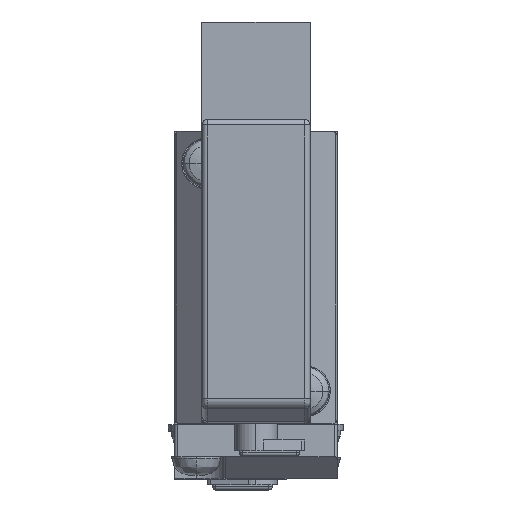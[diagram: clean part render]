
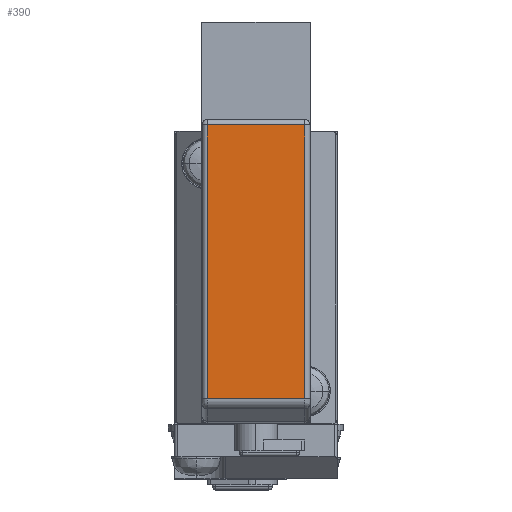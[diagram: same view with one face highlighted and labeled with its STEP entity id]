
A CAD part, top view. The second image highlights one B-rep face of the part: STEP entity #390.
In plain terms, the highlighted planar face has unit normal (0, 0, 1).
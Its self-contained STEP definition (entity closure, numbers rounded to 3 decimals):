
#390=ADVANCED_FACE('',(#1549),#1548,.F.);
#1548=PLANE('',#4324);
#1549=FACE_OUTER_BOUND('',#4325,.T.);
#4321=CARTESIAN_POINT('',(5.4,-27.283,27.4));
#4322=DIRECTION('',(0.,0.,-1.));
#4323=DIRECTION('',(-1.,0.,0.));
#4324=AXIS2_PLACEMENT_3D('',#4321,#4322,#4323);
#4325=EDGE_LOOP('',(#6162,#6163,#6164,#6165));
#6162=ORIENTED_EDGE('',*,*,#7485,.T.);
#6163=ORIENTED_EDGE('',*,*,#7449,.T.);
#6164=ORIENTED_EDGE('',*,*,#7486,.F.);
#6165=ORIENTED_EDGE('',*,*,#7470,.T.);
#7449=EDGE_CURVE('',#9367,#9380,#9387,.T.);
#7470=EDGE_CURVE('',#9498,#9518,#9525,.T.);
#7485=EDGE_CURVE('',#9518,#9367,#9620,.T.);
#7486=EDGE_CURVE('',#9498,#9380,#9626,.T.);
#9367=VERTEX_POINT('',#13865);
#9380=VERTEX_POINT('',#13874);
#9387=LINE('',#13879,#13880);
#9498=VERTEX_POINT('',#13951);
#9518=VERTEX_POINT('',#13965);
#9525=LINE('',#13970,#13971);
#9620=LINE('',#14023,#14024);
#9626=LINE('',#14026,#14027);
#13865=CARTESIAN_POINT('',(-4.5,0.5,27.4));
#13874=CARTESIAN_POINT('',(-4.5,-24.758,27.4));
#13879=CARTESIAN_POINT('',(-4.5,0.5,27.4));
#13880=VECTOR('',#13881,25.258);
#13881=DIRECTION('',(0.,-1.,0.));
#13951=CARTESIAN_POINT('',(4.5,-24.758,27.4));
#13965=CARTESIAN_POINT('',(4.5,0.5,27.4));
#13970=CARTESIAN_POINT('',(4.5,-24.758,27.4));
#13971=VECTOR('',#13972,25.258);
#13972=DIRECTION('',(0.,1.,0.));
#14023=CARTESIAN_POINT('',(4.5,0.5,27.4));
#14024=VECTOR('',#14025,9.);
#14025=DIRECTION('',(-1.,0.,0.));
#14026=CARTESIAN_POINT('',(4.5,-24.758,27.4));
#14027=VECTOR('',#14028,9.);
#14028=DIRECTION('',(-1.,0.,0.));
